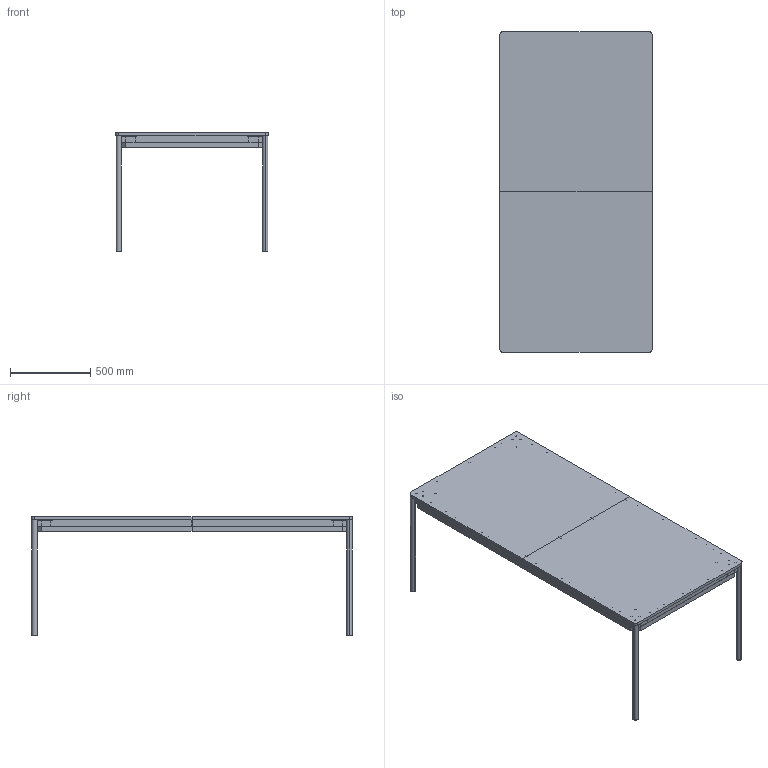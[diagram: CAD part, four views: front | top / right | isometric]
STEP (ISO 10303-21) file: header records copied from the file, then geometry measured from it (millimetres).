
FILE_DESCRIPTION(/* description */ (''),/* implementation_level */ '2;1');
FILE_NAME(/* name */ 'Pieza Dining table (95 x 200:245 cm)',/* time_stamp */ '2020-02-25T09:10:47+01:00',/* author */ (''),/* organization */ (''),/* preprocessor_version */ 'ST-DEVELOPER v15',/* originating_system */ '',/* authorisation */ '');
FILE_SCHEMA (('AUTOMOTIVE_DESIGN'));
Length unit declared in the file: millimetre
Products named in the file (1): Document
Bounding box: 950 x 2000 x 740 mm (x, y, z)
Volume: 58010011.3 mm3; surface area: 8592899.2 mm2
Topology: 53 solids, 59 shells, 1318 faces, 3106 edges, 2052 vertices
Faces by surface type: bspline 742, plane 576
Entity records: 50173 total; most frequent: CARTESIAN_POINT 30695, ORIENTED_EDGE 6064, EDGE_CURVE 3106, VERTEX_POINT 2052, EDGE_LOOP 1674, B_SPLINE_CURVE_WITH_KNOTS 1656, ADVANCED_FACE 1318, FACE_OUTER_BOUND 1318
